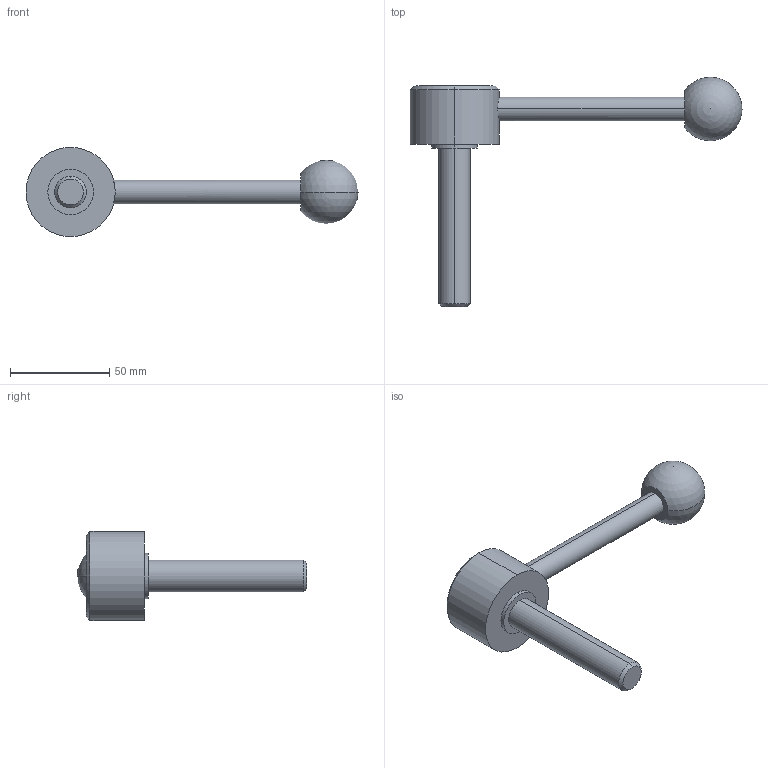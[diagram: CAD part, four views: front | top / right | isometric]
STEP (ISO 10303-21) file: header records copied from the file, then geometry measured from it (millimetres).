
FILE_DESCRIPTION (( 'STEP AP214' ), '1' );
FILE_NAME ('125.5-45-M16-80-D.step', '2020-02-18T11:43:15', ( '' ), ( '' ), 'SwSTEP 2.0', 'SolidWorks 2019', '' );
FILE_SCHEMA (( 'AUTOMOTIVE_DESIGN' ));
Length unit declared in the file: millimetre
Products named in the file (1): 125.5-45-M16-80-D
Bounding box: 167.5 x 115.67 x 45 mm (x, y, z)
Volume: 90510.5 mm3; surface area: 17773.5 mm2
Topology: 1 solids, 1 shells, 22 faces, 47 edges, 30 vertices
Faces by surface type: cylinder 10, plane 6, cone 4, sphere 2
Entity records: 748 total; most frequent: CARTESIAN_POINT 176, DIRECTION 112, ORIENTED_EDGE 84, AXIS2_PLACEMENT_3D 49, EDGE_CURVE 42, VERTEX_POINT 27, EDGE_LOOP 27, CIRCLE 26
